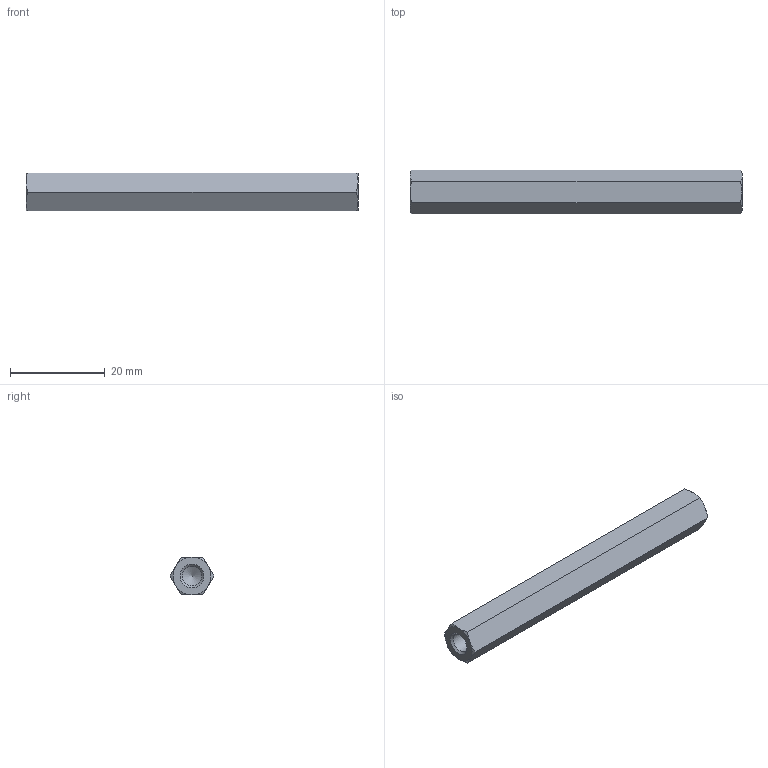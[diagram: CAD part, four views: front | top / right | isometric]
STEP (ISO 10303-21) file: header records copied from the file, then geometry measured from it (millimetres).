
FILE_DESCRIPTION( ( 'STEP AP203' ), '1' );
FILE_NAME( 'C:/Temp/Ganter_Step_05_03_2020/data/3_2/gn6220/gn6220_ni/Stainless Steel-Spacer GN 6220-NI-M5-70-A.stp', '2020-03-13T05:43:01', ( 'License CC BY-ND 4.0' ), ( 'CADENAS' ), ' ', 'PARTsolutions', ' ' );
FILE_SCHEMA( ( 'CONFIG_CONTROL_DESIGN' ) );
Length unit declared in the file: millimetre
Products named in the file (1): _Stainless Steel-Spacer GN 6220-NI-M5-70-A
Bounding box: 70 x 9.24 x 8 mm (x, y, z)
Volume: 3483.8 mm3; surface area: 2412.8 mm2
Topology: 1 solids, 1 shells, 26 faces, 57 edges, 33 vertices
Faces by surface type: cone 16, plane 8, cylinder 2
Full cylindrical faces by diameter (mm): 4.134 x2
Entity records: 750 total; most frequent: CARTESIAN_POINT 211, DIRECTION 96, ORIENTED_EDGE 96, EDGE_CURVE 48, AXIS2_PLACEMENT_3D 45, EDGE_LOOP 32, VERTEX_POINT 32, FACE_OUTER_BOUND 28
